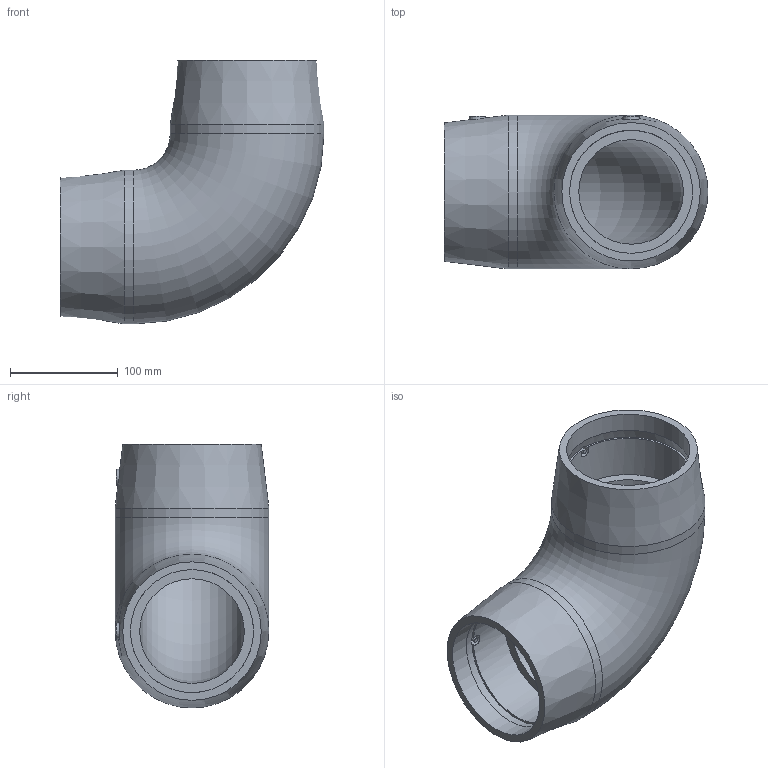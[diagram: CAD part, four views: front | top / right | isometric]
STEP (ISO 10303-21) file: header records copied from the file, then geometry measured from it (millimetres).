
FILE_DESCRIPTION(/* description */ ('PLASSON 90° ELBOW ASTM 4'''''),/* implementation_level */ '2;1');
FILE_NAME(/* name */ 'C:\Dropbox\KIMPROJECTS-Inventor 2019\99-16-3568-Processing Inch\ASTM ElectroFusion 2021\5905B\5905B003040.ipt.stp',/* time_stamp */ '2021-08-30T09:49:54+03:00',/* author */ ('KIM'),/* organization */ (''),/* preprocessor_version */ 'ST-DEVELOPER v17.2',/* originating_system */ 'Autodesk Inventor 2019',/* authorisation */ '');
FILE_SCHEMA (('AUTOMOTIVE_DESIGN { 1 0 10303 214 3 1 1 }'));
Length unit declared in the file: inch
Products named in the file (1): 5905B003040
Bounding box: 244.61 x 142.49 x 244.61 mm (x, y, z)
Volume: 2003911.9 mm3; surface area: 245705.5 mm2
Topology: 3 solids, 3 shells, 30 faces, 79 edges, 57 vertices
Faces by surface type: cylinder 12, plane 10, cone 6, torus 2
Full cylindrical faces by diameter (mm): 4 x2, 10 x2, 114.1 x4, 142.494 x2
Entity records: 1221 total; most frequent: CARTESIAN_POINT 391, DIRECTION 172, ORIENTED_EDGE 158, EDGE_CURVE 79, AXIS2_PLACEMENT_3D 76, VERTEX_POINT 57, CIRCLE 45, EDGE_LOOP 38
